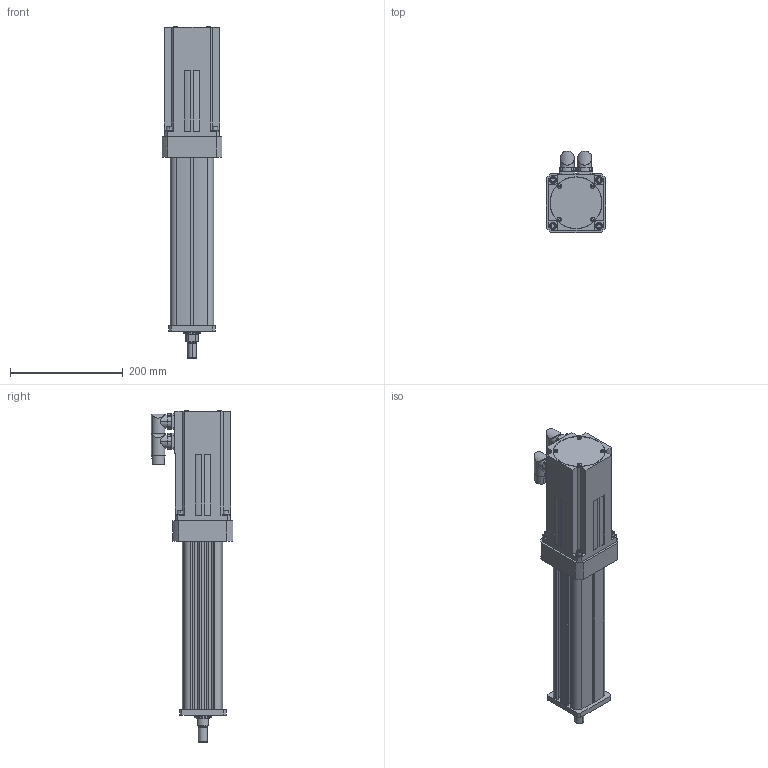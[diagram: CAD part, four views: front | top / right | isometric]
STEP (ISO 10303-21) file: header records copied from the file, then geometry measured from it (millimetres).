
FILE_DESCRIPTION (( 'STEP AP203' ), '1' );
FILE_NAME ('IM30-0602-NA-ISC-SB4.STEP', '2008-08-12T16:45:10', ( ' ' ), ( '' ), 'SwSTEP 2.0', 'SolidWorks 2008', '' );
FILE_SCHEMA (( 'CONFIG_CONTROL_DESIGN' ));
Length unit declared in the file: inch
Products named in the file (20): IM30-0602-NA-ISC-SB4; 26689; 27656; 25925; 13072; 10524; 26279; 12463; 27647; 30542_Default<As Machined>; Stoeber ED401; PRODUCT_NAME_1; PRODUCT_NAME_2; 25925_PART2; 25925_PART3; 27641; 27037; 25925_PART1; 27638; 25943
Assembly tree (39 placements, depth 3):
  IM30-0602-NA-ISC-SB4
    Stoeber ED401
      PRODUCT_NAME_1
      PRODUCT_NAME_2
    10524  x4
    12463  x8
    27647
      30542_Default<As Machined>
    27638
    26279
    27037
    13072  x4
    25925  x2
      25925_PART3
      25925_PART1
      25925_PART2
    27641
    26689
    25943
    27656
Bounding box: 106.43 x 145.21 x 589.76 mm (x, y, z)
Volume: 2971561 mm3; surface area: 475838.9 mm2
Topology: 44 solids, 44 shells, 1282 faces, 3162 edges, 2011 vertices
Faces by surface type: plane 546, cylinder 464, torus 136, cone 100, sphere 28, bspline 8
Entity records: 32447 total; most frequent: CARTESIAN_POINT 6146, DIRECTION 5233, ORIENTED_EDGE 4760, EDGE_CURVE 2380, AXIS2_PLACEMENT_3D 1966, VERTEX_POINT 1533, LINE 1301, VECTOR 1301
